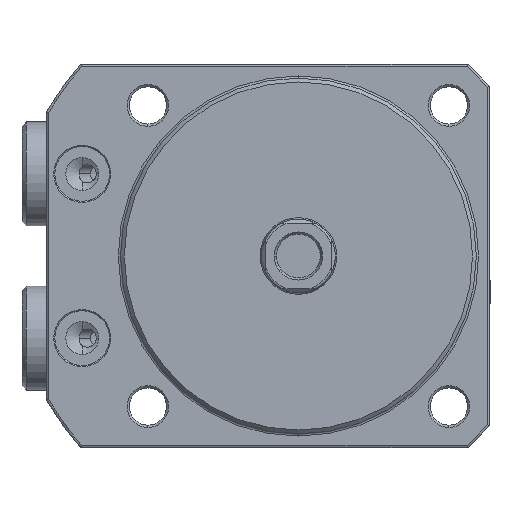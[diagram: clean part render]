
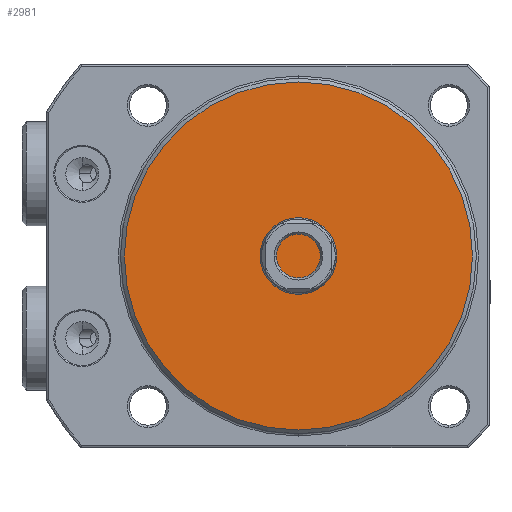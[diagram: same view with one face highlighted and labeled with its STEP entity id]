
A CAD part, front view. The second image highlights one B-rep face of the part: STEP entity #2981.
In plain terms, the highlighted planar face has unit normal (0, -1, 0) as drawn and (-1, 0, 0) by its records, which use the part's own axes.
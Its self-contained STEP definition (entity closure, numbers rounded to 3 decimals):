
#1698=PLANE('',#8119);
#2981=ADVANCED_FACE('',(#3379),#1698,.F.);
#3379=FACE_OUTER_BOUND('',#3796,.T.);
#3796=EDGE_LOOP('',(#5472));
#5472=ORIENTED_EDGE('',*,*,#6983,.T.);
#6125=VERTEX_POINT('',#13333);
#6983=EDGE_CURVE('',#6125,#6125,#7395,.T.);
#7395=CIRCLE('',#8118,31.8);
#8118=AXIS2_PLACEMENT_3D('',#13332,#9915,#9916);
#8119=AXIS2_PLACEMENT_3D('',#13334,#9917,#9918);
#9915=DIRECTION('',(-1.,0.,0.));
#9916=DIRECTION('',(0.,0.,-1.));
#9917=DIRECTION('',(1.,0.,0.));
#9918=DIRECTION('',(0.,0.,1.));
#13332=CARTESIAN_POINT('',(0.,0.,0.));
#13333=CARTESIAN_POINT('',(0.,0.,-31.8));
#13334=CARTESIAN_POINT('',(0.,0.,0.));
